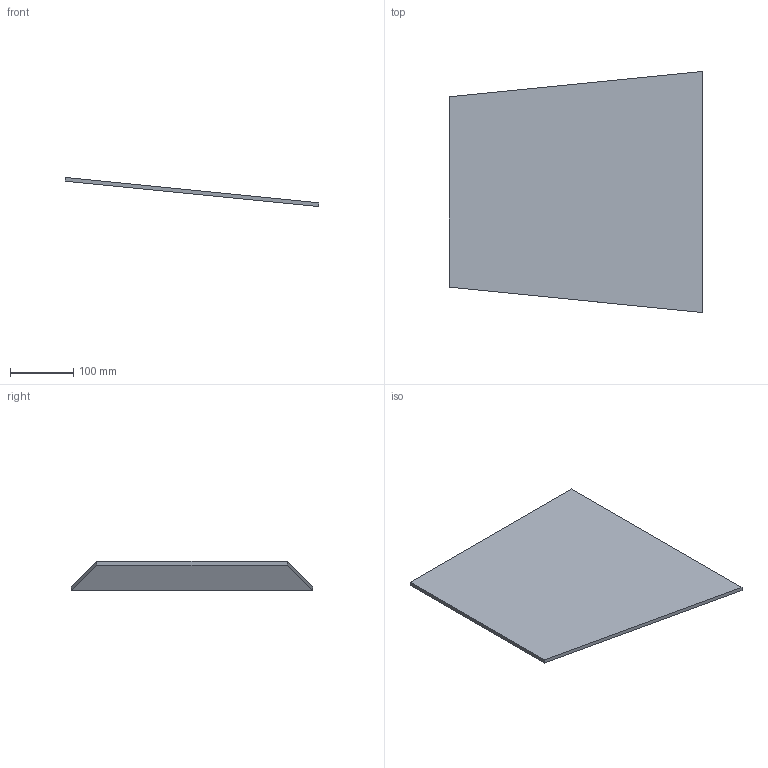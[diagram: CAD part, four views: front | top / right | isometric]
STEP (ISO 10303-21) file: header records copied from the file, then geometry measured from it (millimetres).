
FILE_DESCRIPTION(('Open CASCADE Model'),'2;1');
FILE_NAME('Open CASCADE Shape Model','2026-10-16T18:03:45',('Author'),( 'Open CASCADE'),'Open CASCADE STEP processor 7.8','Open CASCADE 7.8' ,'Unknown');
FILE_SCHEMA(('AUTOMOTIVE_DESIGN { 1 0 10303 214 1 1 1 1 }'));
Length unit declared in the file: millimetre
Products named in the file (1): Open CASCADE STEP translator 7.8 24
Bounding box: 400 x 380 x 46 mm (x, y, z)
Volume: 816000 mm3; surface area: 282260.6 mm2
Topology: 1 solids, 1 shells, 6 faces, 12 edges, 8 vertices
Faces by surface type: plane 6
Entity records: 322 total; most frequent: CARTESIAN_POINT 51, DIRECTION 50, LINE 36, VECTOR 36, ORIENTED_EDGE 24, PCURVE 24, DEFINITIONAL_REPRESENTATION 24, EDGE_CURVE 12
